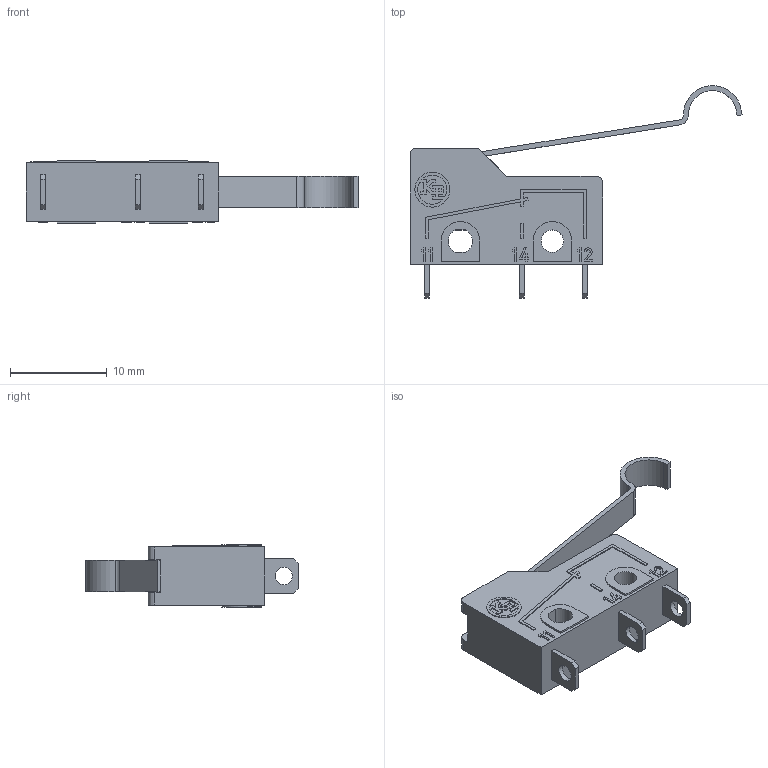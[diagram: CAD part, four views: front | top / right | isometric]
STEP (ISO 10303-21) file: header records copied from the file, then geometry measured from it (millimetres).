
FILE_DESCRIPTION(('Microrutor Subminiatura Alavanca c/ Roldana Simulada'),'2;1');
FILE_NAME('E:\WorkFolder\Bibl\3DWeb\kp_mm_mm$d4$s.stp','2011-12-13T15:00:31',('DIE'),('KAP'),'Autodesk Inventor 2011','Autodesk Inventor 2011','Direitos reservados. Proibido reproducao, cedencia ou revelacao de conteudo a terceiros, salvo com autorizacao.');
FILE_SCHEMA(('AUTOMOTIVE_DESIGN { 1 0 10303 214 1 1 1 1 }'));
Length unit declared in the file: millimetre
Products named in the file (1): Part1
Bounding box: 34.27 x 21.94 x 6.4 mm (x, y, z)
Volume: 1216.2 mm3; surface area: 1256.3 mm2
Topology: 1 solids, 1 shells, 268 faces, 722 edges, 481 vertices
Faces by surface type: plane 233, cylinder 35
Full cylindrical faces by diameter (mm): 1.8 x3, 2.3 x1, 3.6 x1
Entity records: 8589 total; most frequent: CARTESIAN_POINT 1466, ORIENTED_EDGE 1434, DIRECTION 1326, EDGE_CURVE 717, VECTOR 646, LINE 646, VERTEX_POINT 480, AXIS2_PLACEMENT_3D 340
